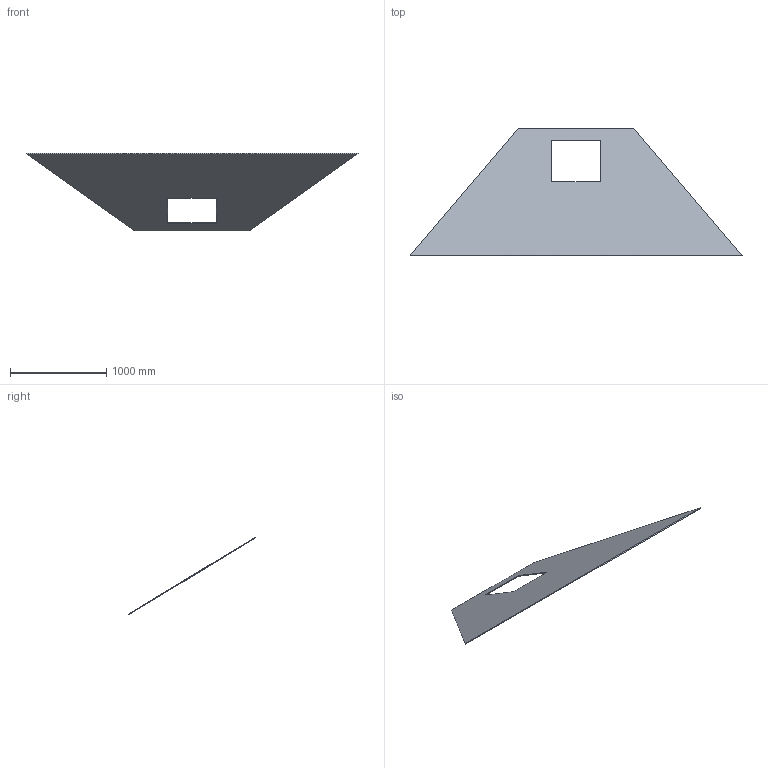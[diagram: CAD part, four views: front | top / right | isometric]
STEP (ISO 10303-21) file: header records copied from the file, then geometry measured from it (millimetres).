
FILE_DESCRIPTION(('Open CASCADE Model'),'2;1');
FILE_NAME('Open CASCADE Shape Model','2026-09-19T12:55:11',('Author'),( 'Open CASCADE'),'Open CASCADE STEP processor 7.9','Open CASCADE 7.9' ,'Unknown');
FILE_SCHEMA(('AUTOMOTIVE_DESIGN { 1 0 10303 214 1 1 1 1 }'));
Length unit declared in the file: millimetre
Products named in the file (1): Open CASCADE STEP translator 7.9 13
Bounding box: 3450 x 1329.13 x 806.85 mm (x, y, z)
Volume: 26788720.4 mm3; surface area: 6780995.1 mm2
Topology: 1 solids, 1 shells, 10 faces, 24 edges, 16 vertices
Faces by surface type: plane 10
Entity records: 614 total; most frequent: CARTESIAN_POINT 99, DIRECTION 94, LINE 72, VECTOR 72, ORIENTED_EDGE 48, PCURVE 48, DEFINITIONAL_REPRESENTATION 48, EDGE_CURVE 24
